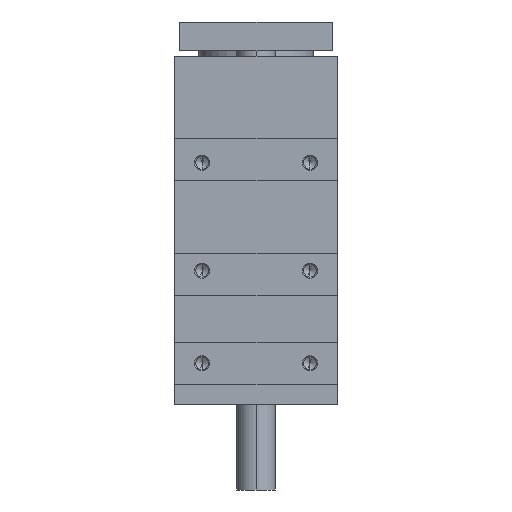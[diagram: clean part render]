
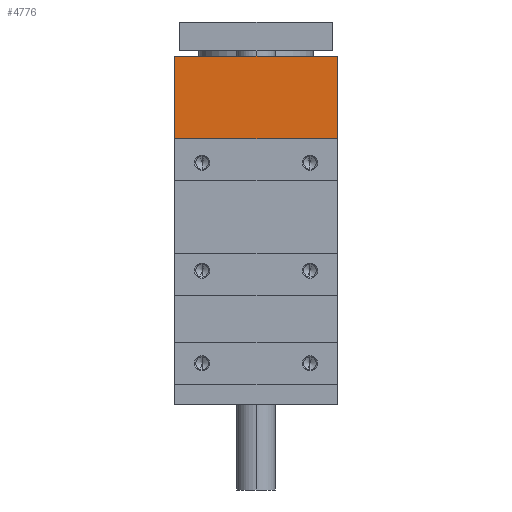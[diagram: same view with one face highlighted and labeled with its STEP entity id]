
A CAD part, left-side view. The second image highlights one B-rep face of the part: STEP entity #4776.
In plain terms, the highlighted planar face has unit normal (-1, 0, 0).
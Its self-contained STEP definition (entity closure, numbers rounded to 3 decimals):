
#758 = DIRECTION ( 'NONE',  ( 0., 0., -1. ) ) ;
#1048 = EDGE_CURVE ( 'NONE', #1081, #6809, #2411, .T. ) ;
#1081 = VERTEX_POINT ( 'NONE', #7952 ) ;
#1283 = AXIS2_PLACEMENT_3D ( 'NONE', #10439, #1419, #4623 ) ;
#1412 = LINE ( 'NONE', #9331, #2625 ) ;
#1419 = DIRECTION ( 'NONE',  ( 1., 0., 0. ) ) ;
#1437 = EDGE_CURVE ( 'NONE', #6809, #6685, #9476, .T. ) ;
#1713 = CARTESIAN_POINT ( 'NONE',  ( -75.7, 42.5, 0. ) ) ;
#1923 = EDGE_LOOP ( 'NONE', ( #5678, #10372, #10388, #4487 ) ) ;
#2086 = VERTEX_POINT ( 'NONE', #6001 ) ;
#2411 = LINE ( 'NONE', #5535, #2739 ) ;
#2625 = VECTOR ( 'NONE', #7008, 1000. ) ;
#2739 = VECTOR ( 'NONE', #8964, 1000. ) ;
#2763 = EDGE_CURVE ( 'NONE', #1081, #2086, #8953, .T. ) ;
#3022 = CARTESIAN_POINT ( 'NONE',  ( -75.7, -42.5, 28. ) ) ;
#4487 = ORIENTED_EDGE ( 'NONE', *, *, #1048, .F. ) ;
#4623 = DIRECTION ( 'NONE',  ( 0., 1., 0. ) ) ;
#4776 = ADVANCED_FACE ( 'NONE', ( #10332 ), #9544, .F. ) ;
#5535 = CARTESIAN_POINT ( 'NONE',  ( -75.7, 85., 71. ) ) ;
#5678 = ORIENTED_EDGE ( 'NONE', *, *, #2763, .T. ) ;
#6001 = CARTESIAN_POINT ( 'NONE',  ( -75.7, 42.5, 28. ) ) ;
#6203 = EDGE_CURVE ( 'NONE', #2086, #6685, #1412, .T. ) ;
#6685 = VERTEX_POINT ( 'NONE', #3022 ) ;
#6809 = VERTEX_POINT ( 'NONE', #7211 ) ;
#6851 = CARTESIAN_POINT ( 'NONE',  ( -75.7, -42.5, 0. ) ) ;
#7008 = DIRECTION ( 'NONE',  ( 0., -1., 0. ) ) ;
#7167 = VECTOR ( 'NONE', #758, 1000. ) ;
#7211 = CARTESIAN_POINT ( 'NONE',  ( -75.7, -42.5, 71. ) ) ;
#7952 = CARTESIAN_POINT ( 'NONE',  ( -75.7, 42.5, 71. ) ) ;
#8220 = VECTOR ( 'NONE', #10058, 1000. ) ;
#8953 = LINE ( 'NONE', #1713, #7167 ) ;
#8964 = DIRECTION ( 'NONE',  ( 0., -1., 0. ) ) ;
#9331 = CARTESIAN_POINT ( 'NONE',  ( -75.7, 85., 28. ) ) ;
#9476 = LINE ( 'NONE', #6851, #8220 ) ;
#9544 = PLANE ( 'NONE',  #1283 ) ;
#10058 = DIRECTION ( 'NONE',  ( 0., 0., -1. ) ) ;
#10332 = FACE_OUTER_BOUND ( 'NONE', #1923, .T. ) ;
#10372 = ORIENTED_EDGE ( 'NONE', *, *, #6203, .T. ) ;
#10388 = ORIENTED_EDGE ( 'NONE', *, *, #1437, .F. ) ;
#10439 = CARTESIAN_POINT ( 'NONE',  ( -75.7, 85., 28. ) ) ;
